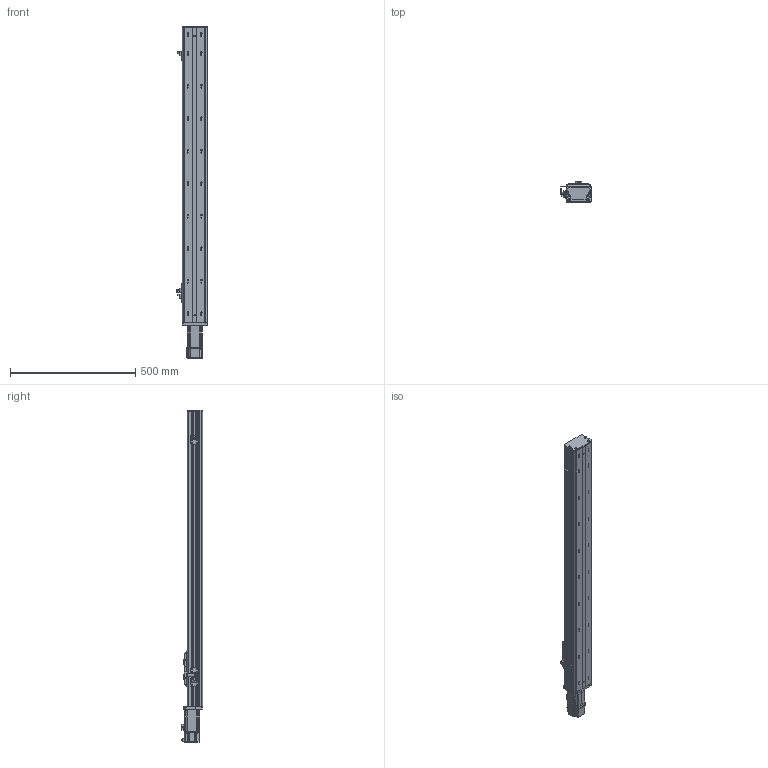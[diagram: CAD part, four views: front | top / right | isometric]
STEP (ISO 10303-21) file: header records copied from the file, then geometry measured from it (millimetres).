
FILE_DESCRIPTION (( 'STEP AP203' ), '1' );
FILE_NAME ('BOSW100-950-1610-1P-CM-M400W-O-S3（方程式2016）.step', '2020-10-10T06:37:35', ( '' ), ( '' ), 'SwSTEP 2.0', 'SolidWorks 2016', '' );
FILE_SCHEMA (( 'CONFIG_CONTROL_DESIGN' ));
Length unit declared in the file: millimetre
Products named in the file (13): BOSW-100-綴裔啣; BOSW&TW-100-詩湍揤沭(陔賦凳); 俋境嫖覜嘐隅啣; 新结构AIMSW-100-1P-宽&高轨共用-滑动座上组件; BOSW&TW-100-俋离覜茼え; BOSW-100-CM-宽轨-三菱M200W&400W马达板(新结构); BOSW-100-1P-CM-宽轨-钢带-950客户图纸; BOSW100-950-1610-1P-CM-M400W-O-S3（方程式2016）; 放大器内置U型微型光电传感器PM-L65; BOSW-100-1P-CM-宽轨-侧板-950客户图纸; BOSW-100-1P-CM-950諦誧芞; S400W(SMA-L040); BOSW&TW-100-1P-賑雄釱欶
Assembly tree (18 placements, depth 2):
  BOSW100-950-1610-1P-CM-M400W-O-S3（方程式2016）
    BOSW-100-1P-CM-950諦誧芞
    BOSW-100-綴裔啣
    新结构AIMSW-100-1P-宽&高轨共用-滑动座上组件
    S400W(SMA-L040)
    BOSW&TW-100-詩湍揤沭(陔賦凳)  x2
    BOSW&TW-100-1P-賑雄釱欶
    BOSW&TW-100-俋离覜茼え
    俋境嫖覜嘐隅啣  x3
    放大器内置U型微型光电传感器PM-L65  x3
    BOSW-100-CM-宽轨-三菱M200W&400W马达板(新结构)
    BOSW-100-1P-CM-宽轨-侧板-950客户图纸  x2
    BOSW-100-1P-CM-宽轨-钢带-950客户图纸
Bounding box: 120.9 x 85.5 x 1327.8 mm (x, y, z)
Volume: 2585016 mm3; surface area: 1152642.8 mm2
Topology: 18 solids, 18 shells, 2551 faces, 6744 edges, 4305 vertices
Faces by surface type: plane 1230, cylinder 837, bspline 271, cone 165, torus 36, sphere 12
Entity records: 70204 total; most frequent: CARTESIAN_POINT 20990, ORIENTED_EDGE 10028, DIRECTION 9764, EDGE_CURVE 5014, AXIS2_PLACEMENT_3D 3498, VERTEX_POINT 3207, VECTOR 2768, LINE 2768
